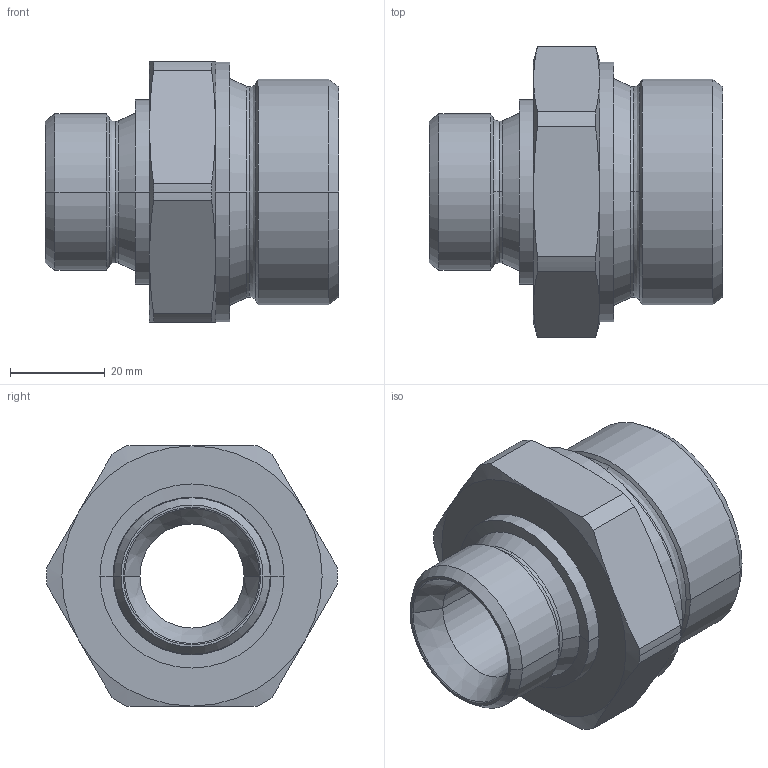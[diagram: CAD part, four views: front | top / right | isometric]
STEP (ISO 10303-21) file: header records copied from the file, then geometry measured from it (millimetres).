
FILE_DESCRIPTION((''),'2;1');
FILE_NAME('300524.stp','2006-09-11T08:13:54',(''),(''),'AutoCAD STEP 2000i','AutoCAD 2000i',', , ');
FILE_SCHEMA(('CONFIG_CONTROL_DESIGN'));
Length unit declared in the file: millimetre
Products named in the file (2): 300524.0; CHIAVE SMUSSATA#0
Assembly tree (1 placements, depth 2):
  300524.0
    CHIAVE SMUSSATA#0
Bounding box: 62 x 61.5 x 55 mm (x, y, z)
Volume: 58130.7 mm3; surface area: 18129.7 mm2
Topology: 1 solids, 1 shells, 76 faces, 178 edges, 106 vertices
Faces by surface type: cone 34, cylinder 20, plane 10, bspline 8, torus 4
Entity records: 2593 total; most frequent: CARTESIAN_POINT 762, DIRECTION 400, ORIENTED_EDGE 356, EDGE_CURVE 178, AXIS2_PLACEMENT_3D 176, VERTEX_POINT 106, CIRCLE 106, EDGE_LOOP 80
